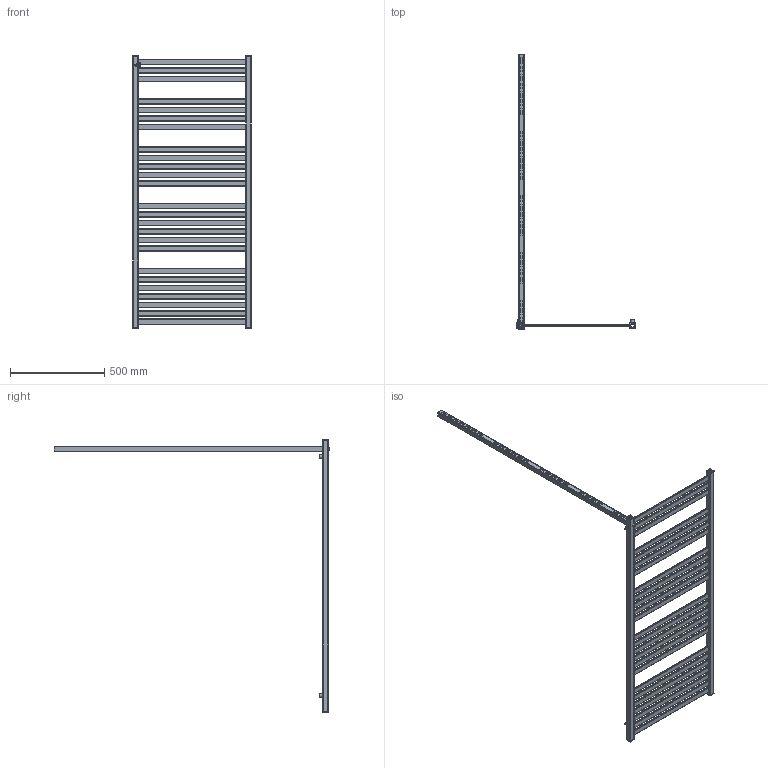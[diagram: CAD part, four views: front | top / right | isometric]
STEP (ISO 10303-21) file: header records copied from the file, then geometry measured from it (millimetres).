
FILE_DESCRIPTION( ( 'Unknown' ), '1' );
FILE_NAME( 'D:/Alplast sp. j/Witryna zespoBu - Projekty/Archiwum/Grzejniki Archiwum/Projekty/STANDARD/AK-EP/AK6-600EP.stp', 'Unknown', ( 'Unknown' ), ( 'Unknown' ), 'PSStep 10.1', 'Unknown', ' ' );
FILE_SCHEMA( ( 'AUTOMOTIVE_DESIGN { 1 0 10303 214 1 1 1 1 }' ) );
Length unit declared in the file: millimetre
Products named in the file (5): Assem1; zaslepka kwadrat otwor; AK6-EPEL; kana³  poziomy 30x10  600; mocowanie
Bounding box: 630 x 1464 x 1450.13 mm (x, y, z)
Volume: 2315323.3 mm3; surface area: 3100431.2 mm2
Topology: 39 solids, 39 shells, 1158 faces, 3210 edges, 2140 vertices
Faces by surface type: plane 660, cylinder 488, torus 10
Full cylindrical faces by diameter (mm): 16 x5, 18 x5, 18.631 x5, 23 x5
Entity records: 11024 total; most frequent: DIRECTION 1584, CARTESIAN_POINT 1536, ORIENTED_EDGE 1484, EDGE_CURVE 742, AXIS2_PLACEMENT_3D 546, VERTEX_POINT 498, LINE 492, VECTOR 492
